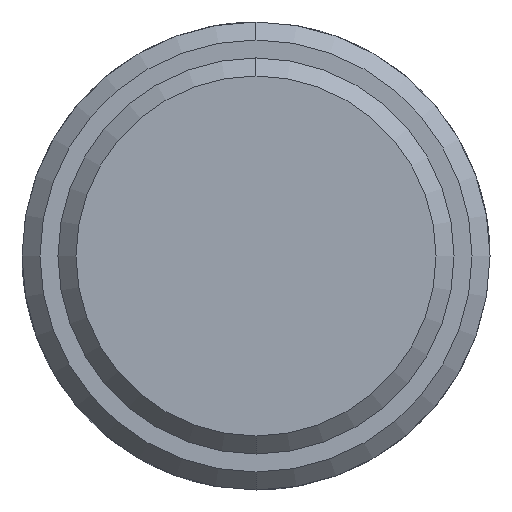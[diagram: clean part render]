
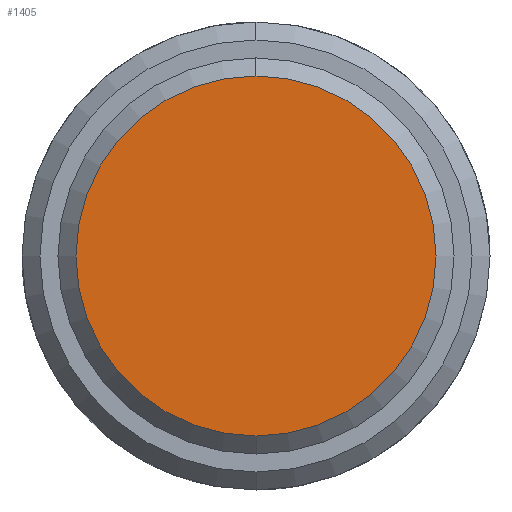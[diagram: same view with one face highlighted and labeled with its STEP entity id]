
A CAD part, left-side view. The second image highlights one B-rep face of the part: STEP entity #1405.
In plain terms, the highlighted planar face has unit normal (-1, 0, 0).
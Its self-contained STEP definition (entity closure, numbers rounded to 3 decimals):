
#1337=CARTESIAN_POINT('Vertex',(-15.,0.,-10.)) ;
#1340=CARTESIAN_POINT('Axis2P3D Location',(-15.,0.,0.)) ;
#1344=CARTESIAN_POINT('Vertex',(-15.,10.,0.)) ;
#1347=CARTESIAN_POINT('Axis2P3D Location',(-15.,0.,0.)) ;
#1351=CARTESIAN_POINT('Vertex',(-15.,0.,10.)) ;
#1373=CARTESIAN_POINT('Axis2P3D Location',(-15.,0.,0.)) ;
#1377=CARTESIAN_POINT('Vertex',(-15.,-10.,0.)) ;
#1380=CARTESIAN_POINT('Axis2P3D Location',(-15.,0.,0.)) ;
#1394=CARTESIAN_POINT('Axis2P3D Location',(-15.,0.,0.)) ;
#1341=DIRECTION('Axis2P3D Direction',(1.,0.,-0.)) ;
#1348=DIRECTION('Axis2P3D Direction',(1.,0.,-0.)) ;
#1374=DIRECTION('Axis2P3D Direction',(1.,0.,-0.)) ;
#1381=DIRECTION('Axis2P3D Direction',(1.,0.,-0.)) ;
#1395=DIRECTION('Axis2P3D Direction',(1.,0.,-0.)) ;
#1396=DIRECTION('Axis2P3D XDirection',(-0.,0.,-1.)) ;
#1342=AXIS2_PLACEMENT_3D('Circle Axis2P3D',#1340,#1341,$) ;
#1349=AXIS2_PLACEMENT_3D('Circle Axis2P3D',#1347,#1348,$) ;
#1375=AXIS2_PLACEMENT_3D('Circle Axis2P3D',#1373,#1374,$) ;
#1382=AXIS2_PLACEMENT_3D('Circle Axis2P3D',#1380,#1381,$) ;
#1397=AXIS2_PLACEMENT_3D('Plane Axis2P3D',#1394,#1395,#1396) ;
#1400=ORIENTED_EDGE('',*,*,#1346,.F.) ;
#1401=ORIENTED_EDGE('',*,*,#1384,.F.) ;
#1402=ORIENTED_EDGE('',*,*,#1379,.F.) ;
#1403=ORIENTED_EDGE('',*,*,#1353,.F.) ;
#1405=ADVANCED_FACE('357-16X46X90',(#1404),#1398,.F.) ;
#1343=CIRCLE('generated circle',#1342,10.) ;
#1350=CIRCLE('generated circle',#1349,10.) ;
#1376=CIRCLE('generated circle',#1375,10.) ;
#1383=CIRCLE('generated circle',#1382,10.) ;
#1346=EDGE_CURVE('',#1338,#1345,#1343,.T.) ;
#1353=EDGE_CURVE('',#1345,#1352,#1350,.T.) ;
#1379=EDGE_CURVE('',#1352,#1378,#1376,.T.) ;
#1384=EDGE_CURVE('',#1378,#1338,#1383,.T.) ;
#1399=EDGE_LOOP('',(#1400,#1401,#1402,#1403)) ;
#1404=FACE_OUTER_BOUND('',#1399,.T.) ;
#1398=PLANE('Plane',#1397) ;
#1338=VERTEX_POINT('',#1337) ;
#1345=VERTEX_POINT('',#1344) ;
#1352=VERTEX_POINT('',#1351) ;
#1378=VERTEX_POINT('',#1377) ;
